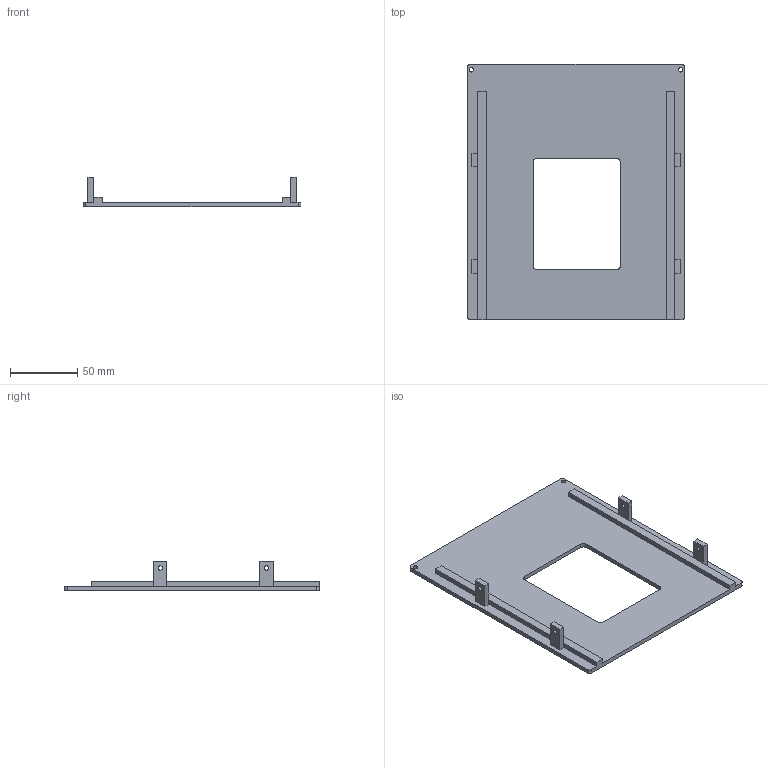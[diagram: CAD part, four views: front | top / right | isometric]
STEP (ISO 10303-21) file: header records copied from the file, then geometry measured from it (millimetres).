
FILE_DESCRIPTION(('Open CASCADE Model'),'2;1');
FILE_NAME('Open CASCADE Shape Model','2026-11-07T14:08:05',('Author'),( 'Open CASCADE'),'Open CASCADE STEP processor 7.9','Open CASCADE 7.9' ,'Unknown');
FILE_SCHEMA(('AUTOMOTIVE_DESIGN { 1 0 10303 214 1 1 1 1 }'));
Length unit declared in the file: millimetre
Products named in the file (1): Open CASCADE STEP translator 7.9 6
Bounding box: 162 x 190 x 22 mm (x, y, z)
Volume: 91814.1 mm3; surface area: 58861.5 mm2
Topology: 1 solids, 1 shells, 52 faces, 138 edges, 92 vertices
Faces by surface type: plane 38, cylinder 14
Full cylindrical faces by diameter (mm): 3.3 x6
Entity records: 3474 total; most frequent: CARTESIAN_POINT 671, DIRECTION 516, LINE 342, VECTOR 342, ORIENTED_EDGE 276, PCURVE 276, DEFINITIONAL_REPRESENTATION 276, EDGE_CURVE 138
